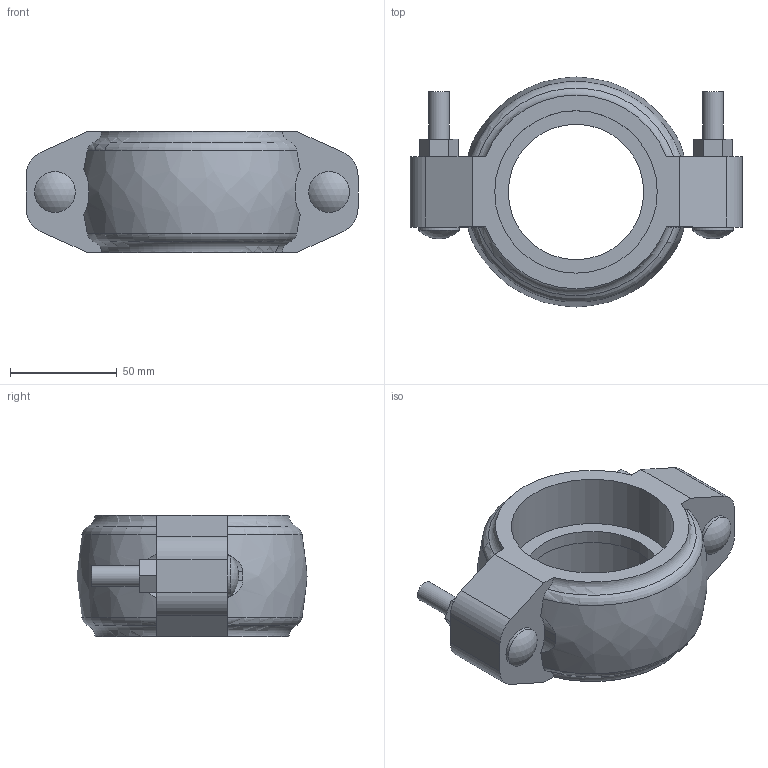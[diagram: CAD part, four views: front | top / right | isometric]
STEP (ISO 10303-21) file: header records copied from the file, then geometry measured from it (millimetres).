
FILE_DESCRIPTION(/* description */ ('VIC STRENGTHIN COUPLING STYLE E497 (RIGID)','CAx-IF Rec.Pracs.---Representation and Presentation of Product Manufacturing Information (PMI)---4.0---2014-10-13'),/* implementation_level */ '2;1');
FILE_NAME(/* name */ 'C:\Users\Vjadhav\AppData\Roaming\Autodesk\ApplicationPlugins\Back Up\Victaulic_SS-StrengThin 100_Coupling Rigid_Style E497 (ST1)\Victaulic_SS-StrengThin 100_Coupling Rigid_Style E497 (ST1)_02.5 (76.1) (65).stp',/* time_stamp */ '2020-07-07T19:35:36+05:00',/* author */ ('jheald'),/* organization */ ('Victaulic'),/* preprocessor_version */ 'ST-DEVELOPER v17.2',/* originating_system */ 'Autodesk Inventor 2019',/* authorisation */ '');
FILE_SCHEMA (('AP242_MANAGED_MODEL_BASED_3D_ENGINEERING_MIM_LF { 1 0 10303 442 1 1 4 }'));
Length unit declared in the file: inch
Products named in the file (1): E497-02.5 (76.1)
Bounding box: 155.7 x 107.95 x 57.15 mm (x, y, z)
Volume: 307175.6 mm3; surface area: 55509.1 mm2
Topology: 1 solids, 3 shells, 79 faces, 211 edges, 142 vertices
Faces by surface type: plane 42, cylinder 25, torus 8, sphere 2, bspline 2
Full cylindrical faces by diameter (mm): 9.525 x4, 19.05 x2, 63.5 x1, 76.2 x2
Entity records: 3000 total; most frequent: CARTESIAN_POINT 802, DIRECTION 423, ORIENTED_EDGE 422, EDGE_CURVE 211, AXIS2_PLACEMENT_3D 157, VERTEX_POINT 142, LINE 109, VECTOR 109
